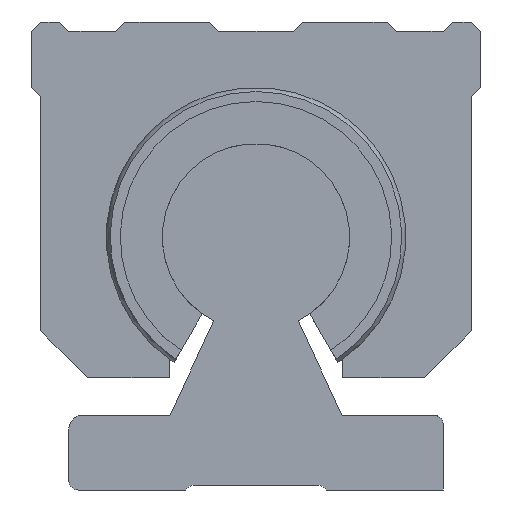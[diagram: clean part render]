
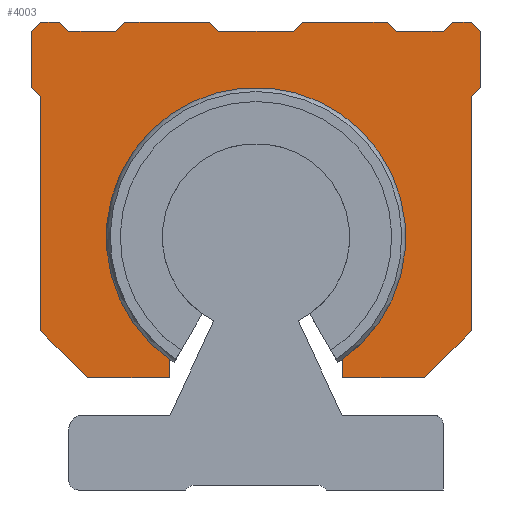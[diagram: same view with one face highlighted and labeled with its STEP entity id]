
A CAD part, left-side view. The second image highlights one B-rep face of the part: STEP entity #4003.
In plain terms, the highlighted planar face has unit normal (-1, 0, 0).
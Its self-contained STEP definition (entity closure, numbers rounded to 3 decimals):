
#3422=CARTESIAN_POINT('',(265.959,-9.25,13.945));
#3423=VERTEX_POINT('',#3422);
#3430=CARTESIAN_POINT('',(265.959,9.25,13.945));
#3431=VERTEX_POINT('',#3430);
#3432=CARTESIAN_POINT('',(265.959,0.,27.0));
#3433=DIRECTION('',(-1.0,0.0,0.0));
#3434=DIRECTION('',(0.0,-0.578,0.816));
#3435=AXIS2_PLACEMENT_3D('',#3432,#3433,#3434);
#3436=CIRCLE('',#3435,16.);
#3437=EDGE_CURVE('',#3423,#3431,#3436,.T.);
#3529=CARTESIAN_POINT('',(265.959,-14.,50.0));
#3530=VERTEX_POINT('',#3529);
#3531=CARTESIAN_POINT('',(265.959,-15.,49.));
#3532=VERTEX_POINT('',#3531);
#3533=CARTESIAN_POINT('',(265.959,-14.,50.0));
#3534=DIRECTION('',(0.0,-0.707,-0.707));
#3535=VECTOR('',#3534,1.414);
#3536=LINE('',#3533,#3535);
#3537=EDGE_CURVE('',#3530,#3532,#3536,.T.);
#3570=CARTESIAN_POINT('',(265.959,-20.,49.));
#3571=VERTEX_POINT('',#3570);
#3572=CARTESIAN_POINT('',(265.959,-15.,49.));
#3573=DIRECTION('',(0.0,-1.0,0.0));
#3574=VECTOR('',#3573,5.);
#3575=LINE('',#3572,#3574);
#3576=EDGE_CURVE('',#3532,#3571,#3575,.T.);
#3622=CARTESIAN_POINT('',(265.959,-4.,49.));
#3623=VERTEX_POINT('',#3622);
#3624=CARTESIAN_POINT('',(265.959,-5.,50.0));
#3625=VERTEX_POINT('',#3624);
#3626=CARTESIAN_POINT('',(265.959,-4.,49.));
#3627=DIRECTION('',(0.0,-0.707,0.707));
#3628=VECTOR('',#3627,1.414);
#3629=LINE('',#3626,#3628);
#3630=EDGE_CURVE('',#3623,#3625,#3629,.T.);
#3662=CARTESIAN_POINT('',(265.959,-21.,50.0));
#3663=VERTEX_POINT('',#3662);
#3664=CARTESIAN_POINT('',(265.959,-20.,49.));
#3665=DIRECTION('',(0.0,-0.707,0.707));
#3666=VECTOR('',#3665,1.414);
#3667=LINE('',#3664,#3666);
#3668=EDGE_CURVE('',#3571,#3663,#3667,.T.);
#3693=CARTESIAN_POINT('',(265.959,21.,50.0));
#3694=VERTEX_POINT('',#3693);
#3695=CARTESIAN_POINT('',(265.959,20.0,49.));
#3696=VERTEX_POINT('',#3695);
#3697=CARTESIAN_POINT('',(265.959,21.,50.0));
#3698=DIRECTION('',(0.0,-0.707,-0.707));
#3699=VECTOR('',#3698,1.414);
#3700=LINE('',#3697,#3699);
#3701=EDGE_CURVE('',#3694,#3696,#3700,.T.);
#3734=CARTESIAN_POINT('',(265.959,15.,49.));
#3735=VERTEX_POINT('',#3734);
#3736=CARTESIAN_POINT('',(265.959,20.0,49.));
#3737=DIRECTION('',(0.0,-1.0,0.0));
#3738=VECTOR('',#3737,5.);
#3739=LINE('',#3736,#3738);
#3740=EDGE_CURVE('',#3696,#3735,#3739,.T.);
#3796=CARTESIAN_POINT('',(265.959,24.,49.));
#3797=VERTEX_POINT('',#3796);
#3804=CARTESIAN_POINT('',(265.959,23.,50.0));
#3805=VERTEX_POINT('',#3804);
#3806=CARTESIAN_POINT('',(265.959,24.,49.));
#3807=DIRECTION('',(0.0,-0.707,0.707));
#3808=VECTOR('',#3807,1.414);
#3809=LINE('',#3806,#3808);
#3810=EDGE_CURVE('',#3797,#3805,#3809,.T.);
#3827=CARTESIAN_POINT('',(265.959,23.,50.0));
#3828=DIRECTION('',(0.0,-1.0,0.0));
#3829=VECTOR('',#3828,2.);
#3830=LINE('',#3827,#3829);
#3831=EDGE_CURVE('',#3805,#3694,#3830,.T.);
#3843=CARTESIAN_POINT('',(265.959,-9.5,49.5));
#3844=DIRECTION('',(1.0,0.0,0.0));
#3845=DIRECTION('',(0.0,0.0,-1.0));
#3846=AXIS2_PLACEMENT_3D('',#3843,#3844,#3845);
#3847=PLANE('',#3846);
#3848=ORIENTED_EDGE('',*,*,#3810,.F.);
#3849=CARTESIAN_POINT('',(265.959,24.,43.));
#3850=VERTEX_POINT('',#3849);
#3851=CARTESIAN_POINT('',(265.959,24.,43.));
#3852=DIRECTION('',(0.0,0.0,1.0));
#3853=VECTOR('',#3852,6.0);
#3854=LINE('',#3851,#3853);
#3855=EDGE_CURVE('',#3850,#3797,#3854,.T.);
#3856=ORIENTED_EDGE('',*,*,#3855,.F.);
#3857=CARTESIAN_POINT('',(265.959,23.,42.));
#3858=VERTEX_POINT('',#3857);
#3859=CARTESIAN_POINT('',(265.959,23.,42.));
#3860=DIRECTION('',(0.0,0.707,0.707));
#3861=VECTOR('',#3860,1.414);
#3862=LINE('',#3859,#3861);
#3863=EDGE_CURVE('',#3858,#3850,#3862,.T.);
#3864=ORIENTED_EDGE('',*,*,#3863,.F.);
#3865=CARTESIAN_POINT('',(265.959,23.,17.));
#3866=VERTEX_POINT('',#3865);
#3867=CARTESIAN_POINT('',(265.959,23.,17.));
#3868=DIRECTION('',(0.0,0.0,1.0));
#3869=VECTOR('',#3868,25.);
#3870=LINE('',#3867,#3869);
#3871=EDGE_CURVE('',#3866,#3858,#3870,.T.);
#3872=ORIENTED_EDGE('',*,*,#3871,.F.);
#3873=CARTESIAN_POINT('',(265.959,18.,12.));
#3874=VERTEX_POINT('',#3873);
#3875=CARTESIAN_POINT('',(265.959,18.,12.));
#3876=DIRECTION('',(0.0,0.707,0.707));
#3877=VECTOR('',#3876,7.071);
#3878=LINE('',#3875,#3877);
#3879=EDGE_CURVE('',#3874,#3866,#3878,.T.);
#3880=ORIENTED_EDGE('',*,*,#3879,.F.);
#3881=CARTESIAN_POINT('',(265.959,9.25,12.));
#3882=VERTEX_POINT('',#3881);
#3883=CARTESIAN_POINT('',(265.959,9.25,12.));
#3884=DIRECTION('',(0.0,1.0,0.0));
#3885=VECTOR('',#3884,8.75);
#3886=LINE('',#3883,#3885);
#3887=EDGE_CURVE('',#3882,#3874,#3886,.T.);
#3888=ORIENTED_EDGE('',*,*,#3887,.F.);
#3889=CARTESIAN_POINT('',(265.959,9.25,13.945));
#3890=DIRECTION('',(0.0,0.0,-1.0));
#3891=VECTOR('',#3890,1.945);
#3892=LINE('',#3889,#3891);
#3893=EDGE_CURVE('',#3431,#3882,#3892,.T.);
#3894=ORIENTED_EDGE('',*,*,#3893,.F.);
#3895=ORIENTED_EDGE('',*,*,#3437,.F.);
#3896=CARTESIAN_POINT('',(265.959,-9.25,12.));
#3897=VERTEX_POINT('',#3896);
#3898=CARTESIAN_POINT('',(265.959,-9.25,12.));
#3899=DIRECTION('',(0.0,0.0,1.0));
#3900=VECTOR('',#3899,1.945);
#3901=LINE('',#3898,#3900);
#3902=EDGE_CURVE('',#3897,#3423,#3901,.T.);
#3903=ORIENTED_EDGE('',*,*,#3902,.F.);
#3904=CARTESIAN_POINT('',(265.959,-18.0,12.));
#3905=VERTEX_POINT('',#3904);
#3906=CARTESIAN_POINT('',(265.959,-18.0,12.));
#3907=DIRECTION('',(0.0,1.0,0.0));
#3908=VECTOR('',#3907,8.75);
#3909=LINE('',#3906,#3908);
#3910=EDGE_CURVE('',#3905,#3897,#3909,.T.);
#3911=ORIENTED_EDGE('',*,*,#3910,.F.);
#3912=CARTESIAN_POINT('',(265.959,-23.,17.));
#3913=VERTEX_POINT('',#3912);
#3914=CARTESIAN_POINT('',(265.959,-23.,17.));
#3915=DIRECTION('',(0.0,0.707,-0.707));
#3916=VECTOR('',#3915,7.071);
#3917=LINE('',#3914,#3916);
#3918=EDGE_CURVE('',#3913,#3905,#3917,.T.);
#3919=ORIENTED_EDGE('',*,*,#3918,.F.);
#3920=CARTESIAN_POINT('',(265.959,-23.,42.));
#3921=VERTEX_POINT('',#3920);
#3922=CARTESIAN_POINT('',(265.959,-23.,42.));
#3923=DIRECTION('',(0.0,0.0,-1.0));
#3924=VECTOR('',#3923,25.);
#3925=LINE('',#3922,#3924);
#3926=EDGE_CURVE('',#3921,#3913,#3925,.T.);
#3927=ORIENTED_EDGE('',*,*,#3926,.F.);
#3928=CARTESIAN_POINT('',(265.959,-24.,43.));
#3929=VERTEX_POINT('',#3928);
#3930=CARTESIAN_POINT('',(265.959,-24.,43.));
#3931=DIRECTION('',(0.0,0.707,-0.707));
#3932=VECTOR('',#3931,1.414);
#3933=LINE('',#3930,#3932);
#3934=EDGE_CURVE('',#3929,#3921,#3933,.T.);
#3935=ORIENTED_EDGE('',*,*,#3934,.F.);
#3936=CARTESIAN_POINT('',(265.959,-24.,49.));
#3937=VERTEX_POINT('',#3936);
#3938=CARTESIAN_POINT('',(265.959,-24.,49.));
#3939=DIRECTION('',(0.0,0.0,-1.0));
#3940=VECTOR('',#3939,6.);
#3941=LINE('',#3938,#3940);
#3942=EDGE_CURVE('',#3937,#3929,#3941,.T.);
#3943=ORIENTED_EDGE('',*,*,#3942,.F.);
#3944=CARTESIAN_POINT('',(265.959,-23.,50.0));
#3945=VERTEX_POINT('',#3944);
#3946=CARTESIAN_POINT('',(265.959,-23.,50.0));
#3947=DIRECTION('',(0.0,-0.707,-0.707));
#3948=VECTOR('',#3947,1.414);
#3949=LINE('',#3946,#3948);
#3950=EDGE_CURVE('',#3945,#3937,#3949,.T.);
#3951=ORIENTED_EDGE('',*,*,#3950,.F.);
#3952=CARTESIAN_POINT('',(265.959,-21.,50.0));
#3953=DIRECTION('',(0.0,-1.0,0.0));
#3954=VECTOR('',#3953,2.0);
#3955=LINE('',#3952,#3954);
#3956=EDGE_CURVE('',#3663,#3945,#3955,.T.);
#3957=ORIENTED_EDGE('',*,*,#3956,.F.);
#3958=ORIENTED_EDGE('',*,*,#3668,.F.);
#3959=ORIENTED_EDGE('',*,*,#3576,.F.);
#3960=ORIENTED_EDGE('',*,*,#3537,.F.);
#3961=CARTESIAN_POINT('',(265.959,-5.,50.0));
#3962=DIRECTION('',(0.0,-1.0,0.0));
#3963=VECTOR('',#3962,9.);
#3964=LINE('',#3961,#3963);
#3965=EDGE_CURVE('',#3625,#3530,#3964,.T.);
#3966=ORIENTED_EDGE('',*,*,#3965,.F.);
#3967=ORIENTED_EDGE('',*,*,#3630,.F.);
#3968=CARTESIAN_POINT('',(265.959,4.,49.));
#3969=VERTEX_POINT('',#3968);
#3970=CARTESIAN_POINT('',(265.959,4.,49.));
#3971=DIRECTION('',(0.0,-1.0,0.0));
#3972=VECTOR('',#3971,8.);
#3973=LINE('',#3970,#3972);
#3974=EDGE_CURVE('',#3969,#3623,#3973,.T.);
#3975=ORIENTED_EDGE('',*,*,#3974,.F.);
#3976=CARTESIAN_POINT('',(265.959,5.,50.0));
#3977=VERTEX_POINT('',#3976);
#3978=CARTESIAN_POINT('',(265.959,5.,50.0));
#3979=DIRECTION('',(0.0,-0.707,-0.707));
#3980=VECTOR('',#3979,1.414);
#3981=LINE('',#3978,#3980);
#3982=EDGE_CURVE('',#3977,#3969,#3981,.T.);
#3983=ORIENTED_EDGE('',*,*,#3982,.F.);
#3984=CARTESIAN_POINT('',(265.959,14.,50.0));
#3985=VERTEX_POINT('',#3984);
#3986=CARTESIAN_POINT('',(265.959,14.,50.0));
#3987=DIRECTION('',(0.0,-1.0,0.0));
#3988=VECTOR('',#3987,9.);
#3989=LINE('',#3986,#3988);
#3990=EDGE_CURVE('',#3985,#3977,#3989,.T.);
#3991=ORIENTED_EDGE('',*,*,#3990,.F.);
#3992=CARTESIAN_POINT('',(265.959,15.,49.));
#3993=DIRECTION('',(0.0,-0.707,0.707));
#3994=VECTOR('',#3993,1.414);
#3995=LINE('',#3992,#3994);
#3996=EDGE_CURVE('',#3735,#3985,#3995,.T.);
#3997=ORIENTED_EDGE('',*,*,#3996,.F.);
#3998=ORIENTED_EDGE('',*,*,#3740,.F.);
#3999=ORIENTED_EDGE('',*,*,#3701,.F.);
#4000=ORIENTED_EDGE('',*,*,#3831,.F.);
#4001=EDGE_LOOP('',(#3848,#3856,#3864,#3872,#3880,#3888,#3894,#3895,#3903,#3911,#3919,#3927,#3935,#3943,#3951,#3957,#3958,#3959,#3960,#3966,#3967,#3975,#3983,#3991,#3997,#3998,#3999,#4000));
#4002=FACE_OUTER_BOUND('',#4001,.T.);
#4003=ADVANCED_FACE('',(#4002),#3847,.F.);
